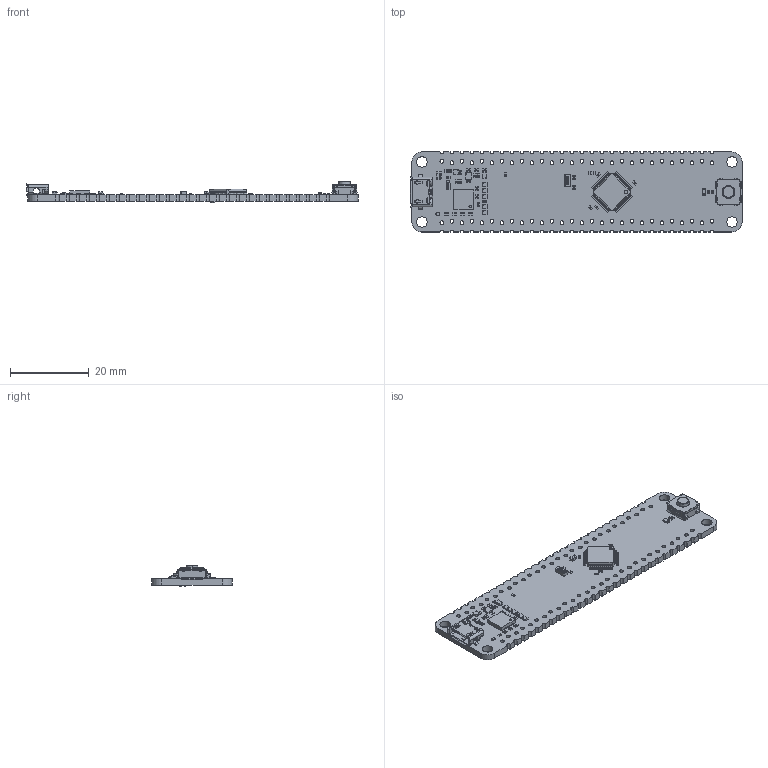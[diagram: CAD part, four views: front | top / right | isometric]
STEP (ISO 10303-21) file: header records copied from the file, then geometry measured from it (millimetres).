
FILE_DESCRIPTION(('Open CASCADE Model'),'2;1');
FILE_NAME('Open CASCADE Shape Model','2019-10-22T14:53:25',('Author'),( 'Open CASCADE'),'Open CASCADE STEP processor 6.8','Open CASCADE 6.8' ,'Unknown');
FILE_SCHEMA(('AUTOMOTIVE_DESIGN { 1 0 10303 214 1 1 1 1 }'));
Length unit declared in the file: millimetre
Products named in the file (108): PCB; Board; Open CASCADE STEP translator 6.8 8.1.1; Open CASCADE STEP translator 6.8 8.1.1.1; R113; 0402_SMD_Resistor; F100; 0805_SMD_Resistor; Q101; X1-DFN1006-3; Compound; LF; U102; 6277676736; Open_CASCADE_STEP_translator_6.8_9.1; Body; Open_CASCADE_STEP_translator_6.8_9.2.1; Thermal_Shape; Pin_Shape; Open_CASCADE_STEP_translator_6.8_9.4.1; J105; ZX62D-AB-5P8; U105; 6277672256; Open_CASCADE_STEP_translator_6.8_18.1; Open_CASCADE_STEP_translator_6.8_18.2.1; Open_CASCADE_STEP_translator_6.8_18.3.1; U107; U104; U103; R105; R102; C101; 0402_SMD_Capacitor; D100; SML-P10; C107; R107; R100; C108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
Assembly tree (238 placements, depth 5):
  PCB
    Board
      Open CASCADE STEP translator 6.8 8.1.1
        Open CASCADE STEP translator 6.8 8.1.1.1
    R113
      0402_SMD_Resistor
    F100
      0805_SMD_Resistor
    Q101
      X1-DFN1006-3
        Compound
        LF
    U102
      6277676736
        Open_CASCADE_STEP_translator_6.8_9.1
        Body
          Open_CASCADE_STEP_translator_6.8_9.2.1
        Thermal_Shape
        Pin_Shape  x6
          Open_CASCADE_STEP_translator_6.8_9.4.1
    J105
      ZX62D-AB-5P8
    U105
      6277672256
        Open_CASCADE_STEP_translator_6.8_18.1
        Body
          Open_CASCADE_STEP_translator_6.8_18.2.1
        Pin_Shape  x6
          Open_CASCADE_STEP_translator_6.8_18.3.1
    U107
      6277672256
        Open_CASCADE_STEP_translator_6.8_18.1
        Body
          Open_CASCADE_STEP_translator_6.8_18.2.1
        Pin_Shape  x6
          Open_CASCADE_STEP_translator_6.8_18.3.1
    U104
      6277672256
        Open_CASCADE_STEP_translator_6.8_18.1
        Body
          Open_CASCADE_STEP_translator_6.8_18.2.1
        Pin_Shape  x6
          Open_CASCADE_STEP_translator_6.8_18.3.1
    U103
      6277672256
        Open_CASCADE_STEP_translator_6.8_18.1
        Body
          Open_CASCADE_STEP_translator_6.8_18.2.1
        Pin_Shape  x6
          Open_CASCADE_STEP_translator_6.8_18.3.1
    R105
      0402_SMD_Resistor
    R102
      0402_SMD_Resistor
    C101
      0402_SMD_Capacitor
    D100
      SML-P10
    C107
      0402_SMD_Capacitor
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Bounding box: 84.32 x 20.32 x 5.53 mm (x, y, z)
Volume: 2830.5 mm3; surface area: 4845.3 mm2
Topology: 195 solids, 204 shells, 5923 faces, 14430 edges, 8773 vertices
Faces by surface type: plane 3602, cylinder 1373, bspline 678, sphere 260, torus 8, cone 2
Full cylindrical faces by diameter (mm): 0.125 x1, 0.131 x5, 0.156 x1, 0.206 x1, 0.55 x2, 0.625 x1, 1 x56, 2.7 x4
Entity records: 79018 total; most frequent: CARTESIAN_POINT 20553, ORIENTED_EDGE 10533, DIRECTION 10180, EDGE_CURVE 5269, LINE 3620, VECTOR 3620, VERTEX_POINT 3381, AXIS2_PLACEMENT_3D 3280
